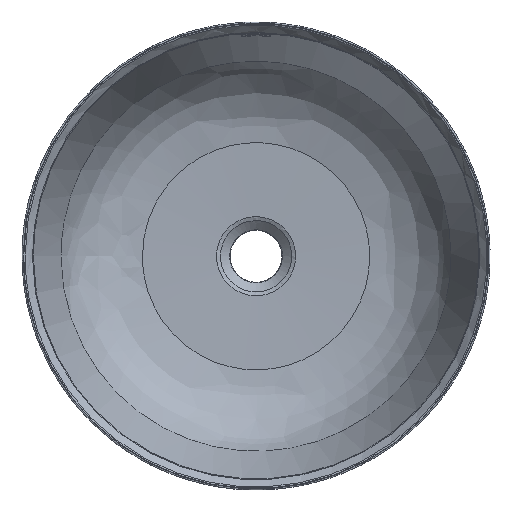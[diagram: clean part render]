
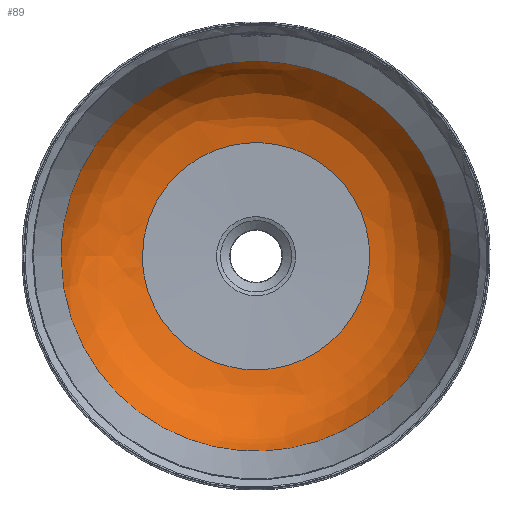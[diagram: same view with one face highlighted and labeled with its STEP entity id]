
A CAD part, top view. The second image highlights one B-rep face of the part: STEP entity #89.
In plain terms, the highlighted free-form (B-spline) face has degree [2, 2] with [9, 3] control points.
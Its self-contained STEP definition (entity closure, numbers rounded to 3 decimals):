
#89=ADVANCED_FACE('',(#197),#1518,.T.);
#197=FACE_OUTER_BOUND('',#305,.T.);
#305=EDGE_LOOP('',(#458,#459,#460,#461));
#458=ORIENTED_EDGE('',*,*,#911,.T.);
#459=ORIENTED_EDGE('',*,*,#912,.T.);
#460=ORIENTED_EDGE('',*,*,#913,.T.);
#461=ORIENTED_EDGE('',*,*,#912,.F.);
#911=EDGE_CURVE('',#1374,#1374,#1286,.T.);
#912=EDGE_CURVE('',#1374,#1375,#1287,.T.);
#913=EDGE_CURVE('',#1375,#1375,#1288,.T.);
#1286=(
BOUNDED_CURVE()
B_SPLINE_CURVE(2,(#2556,#2557,#2558,#2559,#2560,#2561,#2562,#2563,#2564),
 .UNSPECIFIED.,.T.,.F.)
B_SPLINE_CURVE_WITH_KNOTS((3,2,2,2,3),(0.,271.246,542.492,
813.739,1084.985),.UNSPECIFIED.)
CURVE()
GEOMETRIC_REPRESENTATION_ITEM()
RATIONAL_B_SPLINE_CURVE((1.,0.707,1.,0.707,1.,0.707,
1.,0.707,1.))
REPRESENTATION_ITEM('')
);
#1287=(
BOUNDED_CURVE()
B_SPLINE_CURVE(2,(#2565,#2566,#2567),.UNSPECIFIED.,.F.,.F.)
B_SPLINE_CURVE_WITH_KNOTS((3,3),(0.,94.248),.UNSPECIFIED.)
CURVE()
GEOMETRIC_REPRESENTATION_ITEM()
RATIONAL_B_SPLINE_CURVE((1.,0.831,1.))
REPRESENTATION_ITEM('')
);
#1288=(
BOUNDED_CURVE()
B_SPLINE_CURVE(2,(#2568,#2569,#2570,#2571,#2572,#2573,#2574,#2575,#2576),
 .UNSPECIFIED.,.T.,.F.)
B_SPLINE_CURVE_WITH_KNOTS((3,2,2,2,3),(-1084.985,-813.739,
-542.492,-271.246,0.),.UNSPECIFIED.)
CURVE()
GEOMETRIC_REPRESENTATION_ITEM()
RATIONAL_B_SPLINE_CURVE((1.,0.707,1.,0.707,1.,0.707,
1.,0.707,1.))
REPRESENTATION_ITEM('')
);
#1374=VERTEX_POINT('',#2360);
#1375=VERTEX_POINT('',#2361);
#1518=(
BOUNDED_SURFACE()
B_SPLINE_SURFACE(2,2,((#1983,#1984,#1985),(#1986,#1987,#1988),(#1989,#1990,
#1991),(#1992,#1993,#1994),(#1995,#1996,#1997),(#1998,#1999,#2000),(#2001,
#2002,#2003),(#2004,#2005,#2006),(#2007,#2008,#2009)),.UNSPECIFIED.,.T.,
 .F.,.F.)
B_SPLINE_SURFACE_WITH_KNOTS((3,2,2,2,3),(3,3),(0.,271.246,542.492,
813.739,1084.985),(0.,94.248),.UNSPECIFIED.)
GEOMETRIC_REPRESENTATION_ITEM()
RATIONAL_B_SPLINE_SURFACE(((1.,0.831,1.),(0.707,
0.588,0.707),(1.,0.831,1.),(0.707,
0.588,0.707),(1.,0.831,1.),(0.707,
0.588,0.707),(1.,0.831,1.),(0.707,
0.588,0.707),(1.,0.831,1.)))
REPRESENTATION_ITEM('')
SURFACE()
);
#1983=CARTESIAN_POINT('',(12511.635,1341.326,-4156.894));
#1984=CARTESIAN_POINT('',(12530.355,1341.326,-4206.963));
#1985=CARTESIAN_POINT('',(12583.777,1341.326,-4208.829));
#1986=CARTESIAN_POINT('',(12511.635,1168.645,-4156.894));
#1987=CARTESIAN_POINT('',(12530.355,1187.365,-4206.963));
#1988=CARTESIAN_POINT('',(12583.777,1240.787,-4208.829));
#1989=CARTESIAN_POINT('',(12684.315,1168.645,-4156.894));
#1990=CARTESIAN_POINT('',(12684.315,1187.365,-4206.963));
#1991=CARTESIAN_POINT('',(12684.315,1240.787,-4208.829));
#1992=CARTESIAN_POINT('',(12856.996,1168.645,-4156.894));
#1993=CARTESIAN_POINT('',(12838.276,1187.365,-4206.963));
#1994=CARTESIAN_POINT('',(12784.854,1240.787,-4208.829));
#1995=CARTESIAN_POINT('',(12856.996,1341.326,-4156.894));
#1996=CARTESIAN_POINT('',(12838.276,1341.326,-4206.963));
#1997=CARTESIAN_POINT('',(12784.854,1341.326,-4208.829));
#1998=CARTESIAN_POINT('',(12856.996,1514.007,-4156.894));
#1999=CARTESIAN_POINT('',(12838.276,1495.287,-4206.963));
#2000=CARTESIAN_POINT('',(12784.854,1441.865,-4208.829));
#2001=CARTESIAN_POINT('',(12684.315,1514.007,-4156.894));
#2002=CARTESIAN_POINT('',(12684.315,1495.287,-4206.963));
#2003=CARTESIAN_POINT('',(12684.315,1441.865,-4208.829));
#2004=CARTESIAN_POINT('',(12511.635,1514.007,-4156.894));
#2005=CARTESIAN_POINT('',(12530.355,1495.287,-4206.963));
#2006=CARTESIAN_POINT('',(12583.777,1441.865,-4208.829));
#2007=CARTESIAN_POINT('',(12511.635,1341.326,-4156.894));
#2008=CARTESIAN_POINT('',(12530.355,1341.326,-4206.963));
#2009=CARTESIAN_POINT('',(12583.777,1341.326,-4208.829));
#2360=CARTESIAN_POINT('',(12511.635,1341.326,-4156.894));
#2361=CARTESIAN_POINT('',(12583.777,1341.326,-4208.829));
#2556=CARTESIAN_POINT('',(12511.635,1341.326,-4156.894));
#2557=CARTESIAN_POINT('',(12511.635,1168.645,-4156.894));
#2558=CARTESIAN_POINT('',(12684.315,1168.645,-4156.894));
#2559=CARTESIAN_POINT('',(12856.996,1168.645,-4156.894));
#2560=CARTESIAN_POINT('',(12856.996,1341.326,-4156.894));
#2561=CARTESIAN_POINT('',(12856.996,1514.007,-4156.894));
#2562=CARTESIAN_POINT('',(12684.315,1514.007,-4156.894));
#2563=CARTESIAN_POINT('',(12511.635,1514.007,-4156.894));
#2564=CARTESIAN_POINT('',(12511.635,1341.326,-4156.894));
#2565=CARTESIAN_POINT('',(12511.635,1341.326,-4156.894));
#2566=CARTESIAN_POINT('',(12530.355,1341.326,-4206.963));
#2567=CARTESIAN_POINT('',(12583.777,1341.326,-4208.829));
#2568=CARTESIAN_POINT('',(12583.777,1341.326,-4208.829));
#2569=CARTESIAN_POINT('',(12583.777,1441.865,-4208.829));
#2570=CARTESIAN_POINT('',(12684.315,1441.865,-4208.829));
#2571=CARTESIAN_POINT('',(12784.854,1441.865,-4208.829));
#2572=CARTESIAN_POINT('',(12784.854,1341.326,-4208.829));
#2573=CARTESIAN_POINT('',(12784.854,1240.787,-4208.829));
#2574=CARTESIAN_POINT('',(12684.315,1240.787,-4208.829));
#2575=CARTESIAN_POINT('',(12583.777,1240.787,-4208.829));
#2576=CARTESIAN_POINT('',(12583.777,1341.326,-4208.829));
